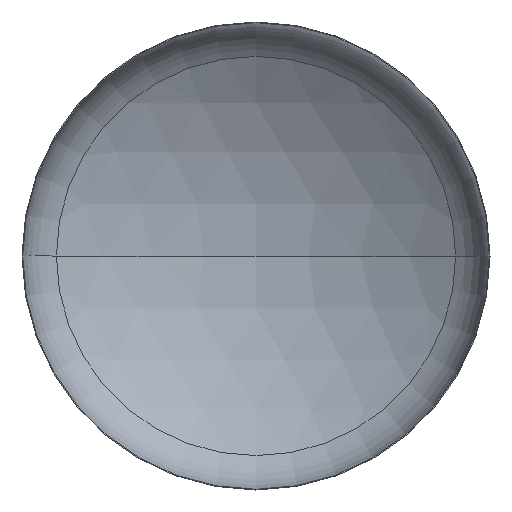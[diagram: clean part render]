
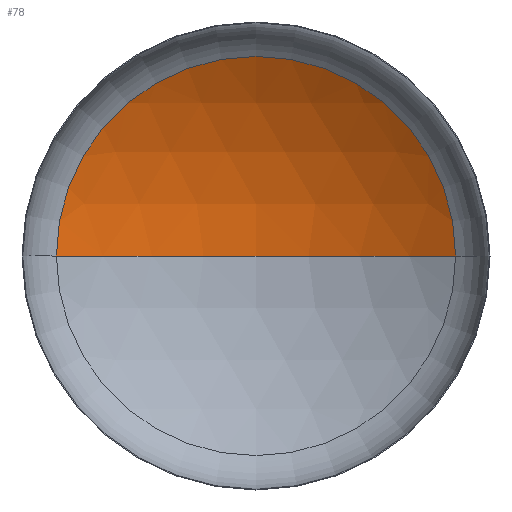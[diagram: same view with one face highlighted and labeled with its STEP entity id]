
A CAD part, front view. The second image highlights one B-rep face of the part: STEP entity #78.
In plain terms, the highlighted spherical face has radius 4800 mm.
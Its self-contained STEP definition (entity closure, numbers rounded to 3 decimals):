
#50 = AXIS2_PLACEMENT_3D ( 'NONE', #127, #338, #161 ) ;
#53 = AXIS2_PLACEMENT_3D ( 'NONE', #183, #177, #179 ) ;
#54 = AXIS2_PLACEMENT_3D ( 'NONE', #287, #286, #188 ) ;
#56 = SPHERICAL_SURFACE ( 'NONE', #92, 4800. ) ;
#78 = ADVANCED_FACE ( 'NONE', ( #315 ), #56, .F. ) ;
#92 = AXIS2_PLACEMENT_3D ( 'NONE', #228, #197, #270 ) ;
#103 = EDGE_LOOP ( 'NONE', ( #138, #191, #256 ) ) ;
#124 = CARTESIAN_POINT ( 'NONE',  ( 2559.174, 812.563, 0. ) ) ;
#127 = CARTESIAN_POINT ( 'NONE',  ( 0., -3248.303, 0. ) ) ;
#132 = EDGE_CURVE ( 'NONE', #330, #164, #372, .T. ) ;
#133 = EDGE_CURVE ( 'NONE', #361, #330, #233, .T. ) ;
#138 = ORIENTED_EDGE ( 'NONE', *, *, #144, .F. ) ;
#144 = EDGE_CURVE ( 'NONE', #361, #164, #225, .T. ) ;
#161 = DIRECTION ( 'NONE',  ( 1., 0., 0. ) ) ;
#164 = VERTEX_POINT ( 'NONE', #224 ) ;
#177 = DIRECTION ( 'NONE',  ( 0., 0., -1. ) ) ;
#179 = DIRECTION ( 'NONE',  ( -1., 0., 0. ) ) ;
#183 = CARTESIAN_POINT ( 'NONE',  ( 0., -3248.303, 0. ) ) ;
#188 = DIRECTION ( 'NONE',  ( 1., 0., 0. ) ) ;
#191 = ORIENTED_EDGE ( 'NONE', *, *, #133, .T. ) ;
#197 = DIRECTION ( 'NONE',  ( 0., 0., -1. ) ) ;
#224 = CARTESIAN_POINT ( 'NONE',  ( -2559.174, 812.563, 0. ) ) ;
#225 = CIRCLE ( 'NONE', #50, 4800. ) ;
#228 = CARTESIAN_POINT ( 'NONE',  ( 0., -3248.303, 0. ) ) ;
#233 = CIRCLE ( 'NONE', #53, 4800. ) ;
#247 = CARTESIAN_POINT ( 'NONE',  ( 0., 1551.697, 0. ) ) ;
#256 = ORIENTED_EDGE ( 'NONE', *, *, #132, .T. ) ;
#270 = DIRECTION ( 'NONE',  ( -1., 0., 0. ) ) ;
#286 = DIRECTION ( 'NONE',  ( 0., -1., 0. ) ) ;
#287 = CARTESIAN_POINT ( 'NONE',  ( 0., 812.563, 0. ) ) ;
#315 = FACE_OUTER_BOUND ( 'NONE', #103, .T. ) ;
#330 = VERTEX_POINT ( 'NONE', #124 ) ;
#338 = DIRECTION ( 'NONE',  ( 0., 0., 1. ) ) ;
#361 = VERTEX_POINT ( 'NONE', #247 ) ;
#372 = CIRCLE ( 'NONE', #54, 2559.174 ) ;
